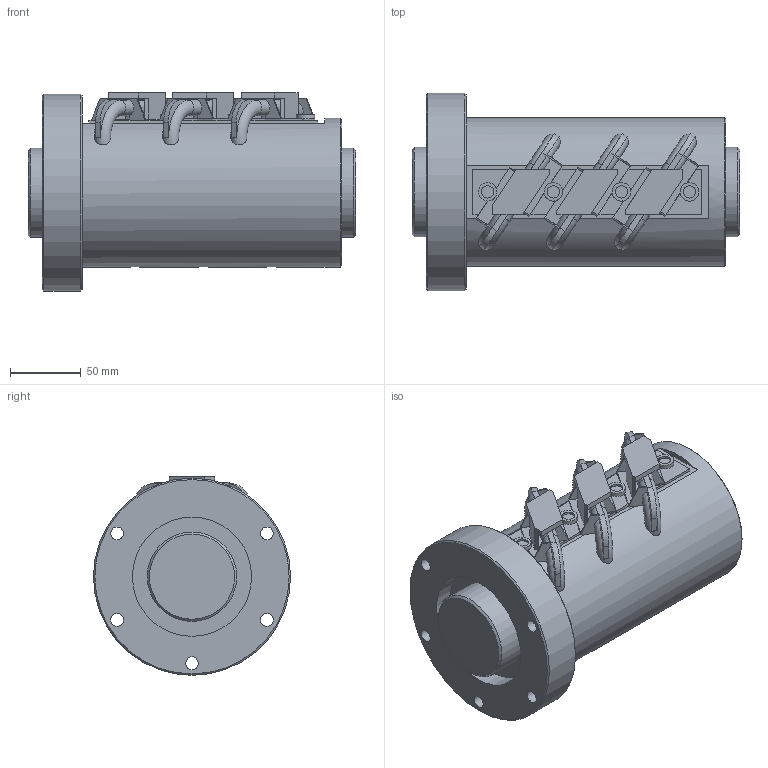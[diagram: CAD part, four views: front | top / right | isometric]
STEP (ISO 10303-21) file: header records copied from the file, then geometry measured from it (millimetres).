
FILE_DESCRIPTION(/* description */ ('STEP AP203'),/* implementation_level */ '2;1');
FILE_NAME(/* name */ 'HBN6316-7.5RRG2+231LC0(0G200)_rev',/* time_stamp */ '2024-07-04T08:18:02+02:00',/* author */ ('License CC BY-ND 4.0'),/* organization */ ('CADENAS'),/* preprocessor_version */ 'ST-DEVELOPER v19.3',/* originating_system */ 'PARTsolutions',/* authorisation */ ' ');
FILE_SCHEMA (('CONFIG_CONTROL_DESIGN'));
Length unit declared in the file: millimetre
Products named in the file (3): HBN6316-7.5RRG2+231LC0(0G200)_rev; HBN6316-7.5 RRG1+231L C0(01000) Shaft; HBN6316-7.5 RRG1+221L C0(0100) Nut
Assembly tree (2 placements, depth 2):
  HBN6316-7.5RRG2+231LC0(0G200)_rev
    HBN6316-7.5 RRG1+231L C0(01000) Shaft
    HBN6316-7.5 RRG1+221L C0(0100) Nut
Bounding box: 231 x 139 x 140 mm (x, y, z)
Volume: 2048428.7 mm3; surface area: 223948.1 mm2
Topology: 2 solids, 2 shells, 241 faces, 715 edges, 452 vertices
Faces by surface type: plane 189, cylinder 35, cone 11, torus 6
Full cylindrical faces by diameter (mm): 4.333 x4, 8.566 x3, 8.667 x4, 9 x5, 13 x4, 63 x2, 84 x2, 105 x1, 139 x1
Entity records: 7962 total; most frequent: CARTESIAN_POINT 1619, ORIENTED_EDGE 1302, DIRECTION 1226, EDGE_CURVE 651, LINE 486, VECTOR 486, VERTEX_POINT 434, AXIS2_PLACEMENT_3D 370
